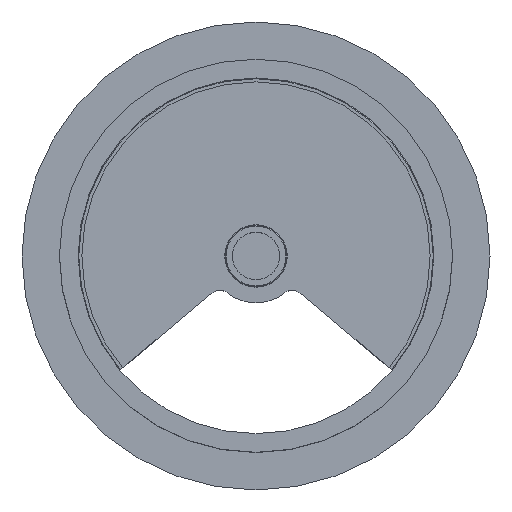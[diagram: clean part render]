
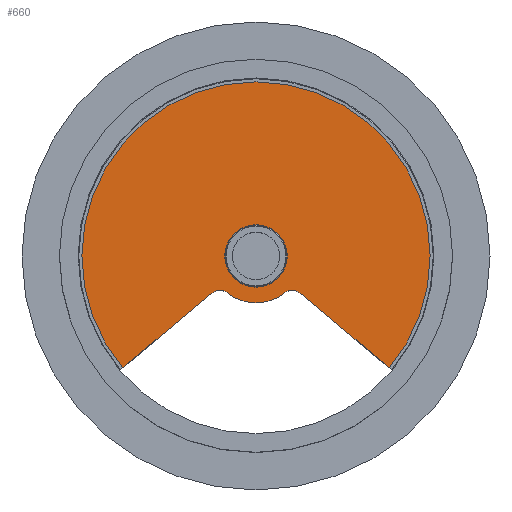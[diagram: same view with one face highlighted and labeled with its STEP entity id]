
A CAD part, top view. The second image highlights one B-rep face of the part: STEP entity #660.
In plain terms, the highlighted planar face has unit normal (0, 0, 1).
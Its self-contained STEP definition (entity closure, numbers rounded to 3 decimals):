
#35=FACE_BOUND('',#142,.T.);
#48=PLANE('',#752);
#94=FACE_OUTER_BOUND('',#141,.T.);
#141=EDGE_LOOP('',(#572,#573,#574,#575,#576,#577));
#142=EDGE_LOOP('',(#578));
#180=LINE('',#1392,#220);
#183=LINE('',#1407,#223);
#220=VECTOR('',#921,10.);
#223=VECTOR('',#938,10.);
#262=CIRCLE('',#743,2.);
#264=CIRCLE('',#747,2.);
#265=CIRCLE('',#749,7.5);
#267=CIRCLE('',#753,27.9);
#268=CIRCLE('',#754,5.);
#314=VERTEX_POINT('',#1374);
#315=VERTEX_POINT('',#1376);
#321=VERTEX_POINT('',#1390);
#324=VERTEX_POINT('',#1397);
#325=VERTEX_POINT('',#1399);
#326=VERTEX_POINT('',#1406);
#332=VERTEX_POINT('',#1421);
#395=EDGE_CURVE('',#314,#315,#262,.T.);
#403=EDGE_CURVE('',#314,#321,#180,.T.);
#406=EDGE_CURVE('',#324,#325,#264,.T.);
#408=EDGE_CURVE('',#324,#315,#265,.T.);
#410=EDGE_CURVE('',#326,#325,#183,.T.);
#417=EDGE_CURVE('',#321,#326,#267,.T.);
#418=EDGE_CURVE('',#332,#332,#268,.T.);
#572=ORIENTED_EDGE('',*,*,#410,.T.);
#573=ORIENTED_EDGE('',*,*,#406,.F.);
#574=ORIENTED_EDGE('',*,*,#408,.T.);
#575=ORIENTED_EDGE('',*,*,#395,.F.);
#576=ORIENTED_EDGE('',*,*,#403,.T.);
#577=ORIENTED_EDGE('',*,*,#417,.T.);
#578=ORIENTED_EDGE('',*,*,#418,.F.);
#660=ADVANCED_FACE('',(#94,#35),#48,.T.);
#743=AXIS2_PLACEMENT_3D('',#1377,#910,#911);
#747=AXIS2_PLACEMENT_3D('',#1400,#927,#928);
#749=AXIS2_PLACEMENT_3D('',#1403,#932,#933);
#752=AXIS2_PLACEMENT_3D('',#1419,#945,#946);
#753=AXIS2_PLACEMENT_3D('',#1420,#947,#948);
#754=AXIS2_PLACEMENT_3D('',#1422,#949,#950);
#910=DIRECTION('center_axis',(0.,0.,
1.));
#911=DIRECTION('ref_axis',(0.019,1.,0.));
#921=DIRECTION('',(0.766,-0.643,0.));
#927=DIRECTION('center_axis',(0.,0.,
1.));
#928=DIRECTION('ref_axis',(-0.019,1.,0.));
#932=DIRECTION('center_axis',(0.,0.,
1.));
#933=DIRECTION('ref_axis',(1.,0.,0.));
#938=DIRECTION('',(0.766,0.643,0.));
#945=DIRECTION('center_axis',(0.,0.,
1.));
#946=DIRECTION('ref_axis',(1.,0.,0.));
#947=DIRECTION('center_axis',(0.,0.,
1.));
#948=DIRECTION('ref_axis',(-1.,0.,0.));
#949=DIRECTION('center_axis',(0.,0.,
1.));
#950=DIRECTION('ref_axis',(-1.,0.,0.));
#1374=CARTESIAN_POINT('',(-67.886,-5.97,-19.));
#1376=CARTESIAN_POINT('',(-70.398,-5.922,-19.));
#1377=CARTESIAN_POINT('Origin',(-69.171,-7.502,-19.));
#1390=CARTESIAN_POINT('',(-53.627,-17.934,-19.));
#1392=CARTESIAN_POINT('',(-64.472,-8.834,-19.));
#1397=CARTESIAN_POINT('',(-79.602,-5.922,-19.));
#1399=CARTESIAN_POINT('',(-82.114,-5.97,-19.));
#1400=CARTESIAN_POINT('Origin',(-80.829,-7.502,-19.));
#1403=CARTESIAN_POINT('Origin',(-75.,0.,-19.));
#1406=CARTESIAN_POINT('',(-96.373,-17.934,-19.));
#1407=CARTESIAN_POINT('',(-76.642,-1.378,-19.));
#1419=CARTESIAN_POINT('Origin',(-75.,5.,-19.));
#1420=CARTESIAN_POINT('Origin',(-75.,0.,-19.));
#1421=CARTESIAN_POINT('',(-75.,-5.,-19.));
#1422=CARTESIAN_POINT('Origin',(-75.,0.,-19.));
